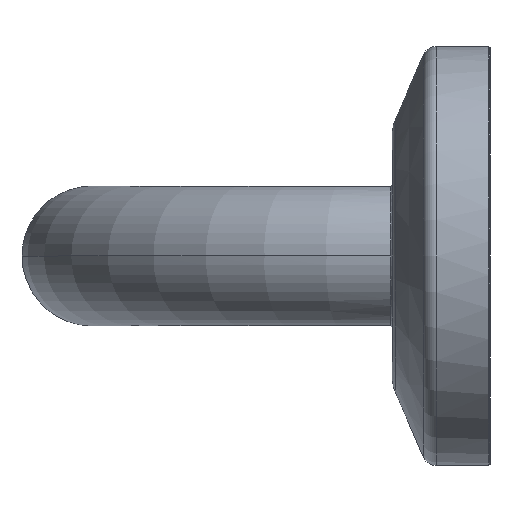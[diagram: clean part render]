
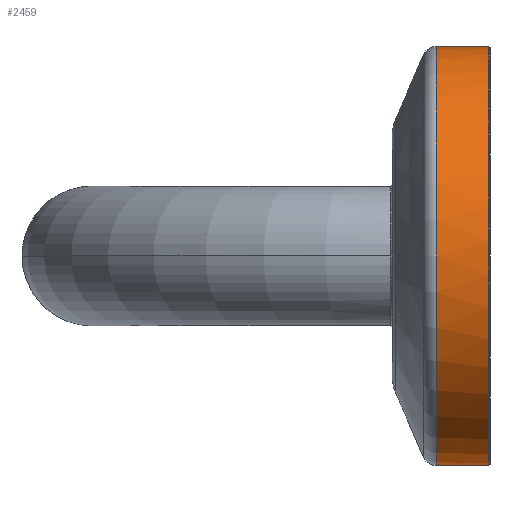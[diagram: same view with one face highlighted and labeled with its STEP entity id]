
A CAD part, left-side view. The second image highlights one B-rep face of the part: STEP entity #2459.
In plain terms, the highlighted cylindrical face has radius 30 mm (diameter 60 mm), a partial arc.
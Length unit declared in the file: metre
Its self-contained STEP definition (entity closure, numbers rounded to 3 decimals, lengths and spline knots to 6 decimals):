
#74=VERTEX_POINT('',#75);
#75=CARTESIAN_POINT('',(-0.24,-0.0138,-0.03));
#82=VERTEX_POINT('',#83);
#83=CARTESIAN_POINT('',(-0.24,-0.0138,0.03));
#160=VERTEX_POINT('',#161);
#161=CARTESIAN_POINT('',(-0.24,-0.006311,-0.03));
#168=EDGE_CURVE('',#160,#169,#171,.T.);
#169=VERTEX_POINT('',#170);
#170=CARTESIAN_POINT('',(-0.24,-0.006311,0.03));
#171=CIRCLE('',#172,0.03);
#172=AXIS2_PLACEMENT_3D('',#173,#174,#175);
#173=CARTESIAN_POINT('',(-0.24,-0.006311,0.0));
#174=DIRECTION('',(0.0,1.0,0.0));
#175=DIRECTION('',(0.0,0.0,-1.0));
#206=CYLINDRICAL_SURFACE('',#207,0.03);
#207=AXIS2_PLACEMENT_3D('',#208,#209,#210);
#208=CARTESIAN_POINT('',(-0.24,0.0,0.0));
#209=DIRECTION('',(0.0,1.0,0.0));
#210=DIRECTION('',(0.0,0.0,1.0));
#215=EDGE_CURVE('',#74,#160,#216,.T.);
#216=LINE('',#217,#218);
#217=CARTESIAN_POINT('',(-0.24,0.0,-0.03));
#218=VECTOR('',#219,1.0);
#219=DIRECTION('',(0.0,1.0,0.0));
#228=EDGE_CURVE('',#82,#169,#229,.T.);
#229=LINE('',#230,#231);
#230=CARTESIAN_POINT('',(-0.24,-0.005,0.03));
#231=VECTOR('',#232,1.0);
#232=DIRECTION('',(0.0,1.0,0.0));
#2457=FACE_OUTER_BOUND('',#2460,.T.);
#2459=ADVANCED_FACE('',(#2457),#206,.T.);
#2460=EDGE_LOOP('',(#2461,#2462,#2470,#2471));
#2461=ORIENTED_EDGE('',*,*,#215,.F.);
#2462=ORIENTED_EDGE('',*,*,#2464,.T.);
#2463=CARTESIAN_POINT('',(-0.24,-0.0138,-0.03));
#2464=EDGE_CURVE('',#74,#82,#2465,.T.);
#2465=(B_SPLINE_CURVE(3,(#2463,#2466,#2467,#2468),.UNSPECIFIED.,.F.,.U.)B_SPLINE_CURVE_WITH_KNOTS(
  (4,4),(0.0,1.0),.UNSPECIFIED.)BOUNDED_CURVE()CURVE()GEOMETRIC_REPRESENTATION_ITEM(
  )RATIONAL_B_SPLINE_CURVE((1.0,0.333,0.333,1.0)
  )REPRESENTATION_ITEM(''));
#2466=CARTESIAN_POINT('',(-0.3,-0.0138,-0.03));
#2467=CARTESIAN_POINT('',(-0.3,-0.0138,0.03));
#2468=CARTESIAN_POINT('',(-0.24,-0.0138,0.03));
#2470=ORIENTED_EDGE('',*,*,#228,.T.);
#2471=ORIENTED_EDGE('',*,*,#168,.F.);
